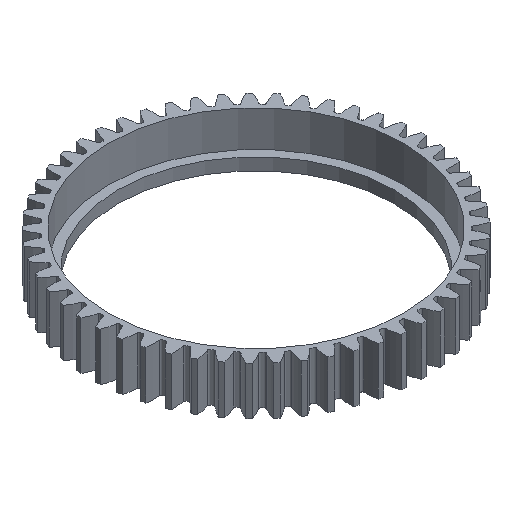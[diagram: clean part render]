
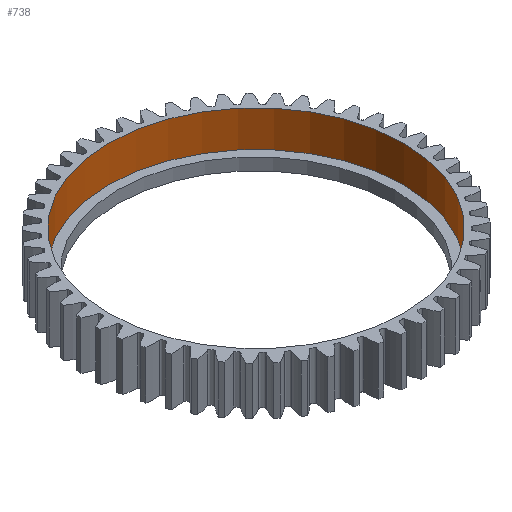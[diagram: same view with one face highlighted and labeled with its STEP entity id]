
A CAD part, isometric view. The second image highlights one B-rep face of the part: STEP entity #738.
In plain terms, the highlighted cylindrical face has radius 12.25 mm (diameter 24.5 mm), a full revolution.
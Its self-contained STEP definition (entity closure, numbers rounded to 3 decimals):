
#518=FACE_BOUND('',#1224,.T.);
#519=FACE_BOUND('',#1225,.T.);
#738=ADVANCED_FACE('',(#518,#519),#794,.F.);
#794=CYLINDRICAL_SURFACE('',#4277,12.25);
#1224=EDGE_LOOP('',(#2614));
#1225=EDGE_LOOP('',(#2615));
#1336=CIRCLE('',#4272,12.25);
#1338=CIRCLE('',#4276,12.25);
#2614=ORIENTED_EDGE('',*,*,#3686,.F.);
#2615=ORIENTED_EDGE('',*,*,#3417,.F.);
#2937=VERTEX_POINT('',#11561);
#3046=VERTEX_POINT('',#30226);
#3417=EDGE_CURVE('',#2937,#2937,#1336,.T.);
#3686=EDGE_CURVE('',#3046,#3046,#1338,.T.);
#4272=AXIS2_PLACEMENT_3D('',#11560,#4705,#4706);
#4276=AXIS2_PLACEMENT_3D('',#30225,#4821,#4822);
#4277=AXIS2_PLACEMENT_3D('',#30227,#4823,#4824);
#4705=DIRECTION('',(0.,0.,-1.));
#4706=DIRECTION('',(1.,0.,0.));
#4821=DIRECTION('',(0.,0.,1.));
#4822=DIRECTION('',(1.,0.,0.));
#4823=DIRECTION('',(0.,0.,1.));
#4824=DIRECTION('',(1.,0.,0.));
#11560=CARTESIAN_POINT('',(0.,0.,0.));
#11561=CARTESIAN_POINT('',(12.25,0.,0.));
#30225=CARTESIAN_POINT('',(0.,0.,-3.));
#30226=CARTESIAN_POINT('',(12.25,0.,-3.));
#30227=CARTESIAN_POINT('',(0.,0.,-3.));
